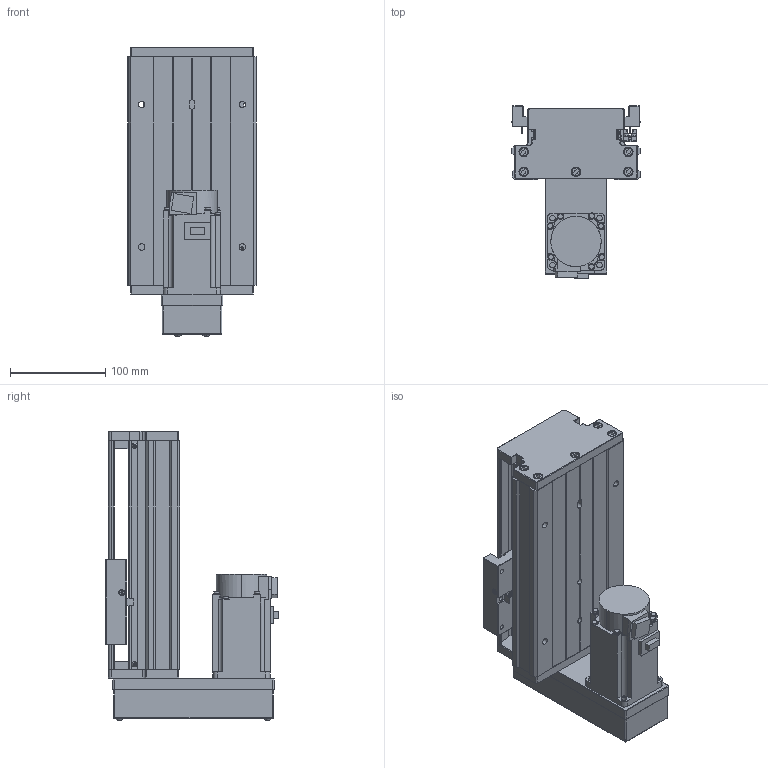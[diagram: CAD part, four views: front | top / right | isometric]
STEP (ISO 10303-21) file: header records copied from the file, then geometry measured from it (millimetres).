
FILE_DESCRIPTION (( 'STEP AP203' ), '1' );
FILE_NAME ('KTH130-100-BM-M40-C4.step', '2023-06-30T04:03:00', ( '微软用户' ), ( '微软中国' ), 'SwSTEP 2.0', 'SolidWorks 2020', '' );
FILE_SCHEMA (( 'CONFIG_CONTROL_DESIGN' ));
Length unit declared in the file: millimetre
Products named in the file (19): GBT 70.3-M3℅8; GTH14-001_100; CTHA60-017; HG-KN43J-S100; KTH130-002_KTH130-002; EE_SX911P_R; GBT 70.2-M4¡Á35_M4¡Á35; KTH130-004; CTHA60-016; GTH14-015-2_CTHA86-015-2; KTH130-005; GBT 70.1-M3℅5; GTH14-033; GB1155-6X6; GBT77-2000 M3×3; KTH130-100-BM-M40-C4; GBT70.1 M5℅16; す晦芛蹟隊 M3℅5; GBT 70.2-M3¡Á5_M3¡Á6
Assembly tree (53 placements, depth 2):
  KTH130-100-BM-M40-C4
    GTH14-001_100
    KTH130-002_KTH130-002
    KTH130-004
    KTH130-005
    GB1155-6X6  x2
    GBT70.1 M5℅16  x10
    GBT 70.2-M3¡Á5_M3¡Á6  x4
    CTHA60-017  x3
    EE_SX911P_R  x3
    CTHA60-016  x2
    GBT 70.1-M3℅5  x6
    GBT77-2000 M3×3  x6
    す晦芛蹟隊 M3℅5  x2
    GBT 70.3-M3℅8  x4
    HG-KN43J-S100
    GBT 70.2-M4¡Á35_M4¡Á35  x4
    GTH14-015-2_CTHA86-015-2
    GTH14-033
Bounding box: 135 x 181.8 x 304.2 mm (x, y, z)
Volume: 2085417.2 mm3; surface area: 404014.9 mm2
Topology: 56 solids, 56 shells, 2193 faces, 5294 edges, 3294 vertices
Faces by surface type: plane 1191, cylinder 588, cone 290, torus 100, sphere 24
Entity records: 39634 total; most frequent: CARTESIAN_POINT 8484, DIRECTION 5859, ORIENTED_EDGE 5788, EDGE_CURVE 2894, AXIS2_PLACEMENT_3D 2000, LINE 1859, VECTOR 1859, VERTEX_POINT 1847
